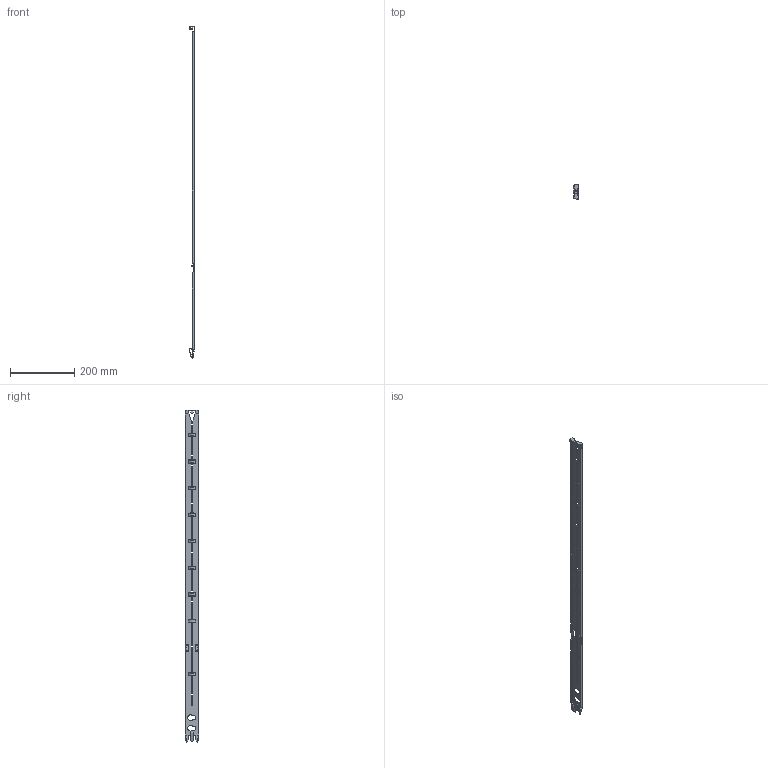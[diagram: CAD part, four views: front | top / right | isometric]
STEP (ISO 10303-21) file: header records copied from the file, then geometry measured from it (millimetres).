
FILE_DESCRIPTION((''),'2;1');
FILE_NAME('M1039232_TRACK_ASSY_CLIPPED_ASM','2017-11-01T',('lacann'),(''),'CREO PARAMETRIC BY PTC INC, 2016130','CREO PARAMETRIC BY PTC INC, 2016130','');
FILE_SCHEMA(('CONFIG_CONTROL_DESIGN','GEOMETRIC_VALIDATION_PROPERTIES_MIM'));
Length unit declared in the file: millimetre
Products named in the file (3): M1037242_TRACK_CHASSIS_CLIP; M1037243_CLIP_SPRING_TRACK; M1039232_TRACK_ASSY_CLIPPED_ASM
Assembly tree (2 placements, depth 2):
  M1039232_TRACK_ASSY_CLIPPED_ASM
    M1037242_TRACK_CHASSIS_CLIP
    M1037243_CLIP_SPRING_TRACK
Bounding box: 18.49 x 43.5 x 1036.95 mm (x, y, z)
Volume: 64055 mm3; surface area: 113896.7 mm2
Topology: 2 solids, 2 shells, 668 faces, 1712 edges, 1028 vertices
Faces by surface type: plane 506, cylinder 154, bspline 8
Entity records: 25566 total; most frequent: CARTESIAN_POINT 3944, ORIENTED_EDGE 3424, DIRECTION 3344, PRESENTATION_STYLE_ASSIGNMENT 1714, STYLED_ITEM 1714, CURVE_STYLE 1712, EDGE_CURVE 1712, VECTOR 1378
